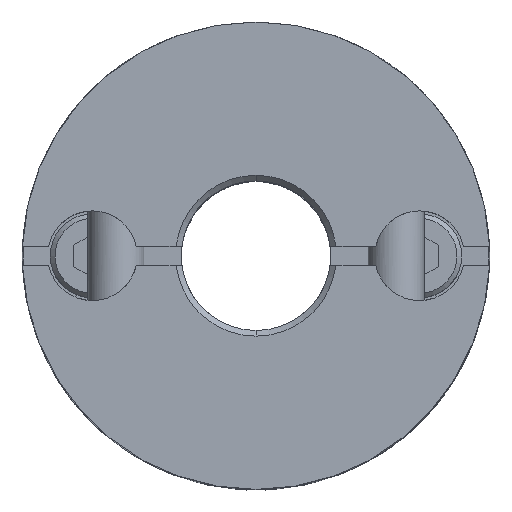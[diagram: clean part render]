
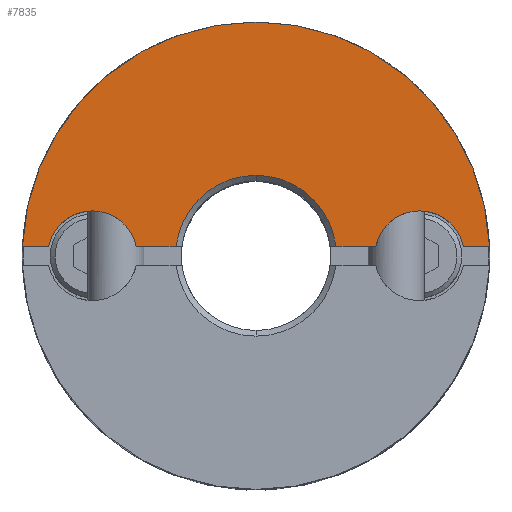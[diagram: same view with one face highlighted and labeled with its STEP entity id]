
A CAD part, top view. The second image highlights one B-rep face of the part: STEP entity #7835.
In plain terms, the highlighted planar face has unit normal (0, 0, 1).
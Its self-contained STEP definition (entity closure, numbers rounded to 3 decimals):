
#809=CARTESIAN_POINT('',(0.,12.5,11.7));
#810=VERTEX_POINT('',#809);
#817=CARTESIAN_POINT('',(12.49,0.5,11.7));
#818=VERTEX_POINT('',#817);
#819=CARTESIAN_POINT('',(0.,0.0,11.7));
#820=DIRECTION('',(0.0,0.0,-1.0));
#821=DIRECTION('',(0.0,-1.0,0.0));
#822=AXIS2_PLACEMENT_3D('',#819,#820,#821);
#823=CIRCLE('',#822,12.5);
#824=EDGE_CURVE('',#810,#818,#823,.T.);
#1028=CARTESIAN_POINT('',(0.,4.3,11.7));
#1029=VERTEX_POINT('',#1028);
#1037=CARTESIAN_POINT('',(4.271,0.5,11.7));
#1038=VERTEX_POINT('',#1037);
#1052=CARTESIAN_POINT('',(0.,0.0,11.7));
#1053=DIRECTION('',(0.0,0.0,1.0));
#1054=DIRECTION('',(0.0,1.0,0.0));
#1055=AXIS2_PLACEMENT_3D('',#1052,#1053,#1054);
#1056=CIRCLE('',#1055,4.3);
#1057=EDGE_CURVE('',#1038,#1029,#1056,.T.);
#1428=CARTESIAN_POINT('',(8.75,2.4,11.7));
#1429=VERTEX_POINT('',#1428);
#1436=CARTESIAN_POINT('',(6.403,0.5,11.7));
#1437=VERTEX_POINT('',#1436);
#1438=CARTESIAN_POINT('',(8.75,0.,11.7));
#1439=DIRECTION('',(0.0,0.0,-1.0));
#1440=DIRECTION('',(0.0,-1.0,0.0));
#1441=AXIS2_PLACEMENT_3D('',#1438,#1439,#1440);
#1442=CIRCLE('',#1441,2.4);
#1443=EDGE_CURVE('',#1437,#1429,#1442,.T.);
#1503=CARTESIAN_POINT('',(11.097,0.5,11.7));
#1504=VERTEX_POINT('',#1503);
#1511=CARTESIAN_POINT('',(8.75,0.,11.7));
#1512=DIRECTION('',(0.0,0.0,-1.0));
#1513=DIRECTION('',(0.0,-1.0,0.0));
#1514=AXIS2_PLACEMENT_3D('',#1511,#1512,#1513);
#1515=CIRCLE('',#1514,2.4);
#1516=EDGE_CURVE('',#1429,#1504,#1515,.T.);
#1837=CARTESIAN_POINT('',(-8.75,2.4,11.7));
#1838=VERTEX_POINT('',#1837);
#1870=CARTESIAN_POINT('',(-6.403,0.5,11.7));
#1871=VERTEX_POINT('',#1870);
#1878=CARTESIAN_POINT('',(-8.75,0.,11.7));
#1879=DIRECTION('',(0.0,0.0,-1.0));
#1880=DIRECTION('',(0.0,-1.0,0.0));
#1881=AXIS2_PLACEMENT_3D('',#1878,#1879,#1880);
#1882=CIRCLE('',#1881,2.4);
#1883=EDGE_CURVE('',#1838,#1871,#1882,.T.);
#6343=CARTESIAN_POINT('',(-11.097,0.5,11.7));
#6344=VERTEX_POINT('',#6343);
#6345=CARTESIAN_POINT('',(-8.75,0.,11.7));
#6346=DIRECTION('',(0.0,0.0,-1.0));
#6347=DIRECTION('',(0.0,-1.0,0.0));
#6348=AXIS2_PLACEMENT_3D('',#6345,#6346,#6347);
#6349=CIRCLE('',#6348,2.4);
#6350=EDGE_CURVE('',#6344,#1838,#6349,.T.);
#6870=CARTESIAN_POINT('',(4.271,0.5,11.7));
#6871=DIRECTION('',(1.0,0.0,0.0));
#6872=VECTOR('',#6871,2.132);
#6873=LINE('',#6870,#6872);
#6874=EDGE_CURVE('',#1038,#1437,#6873,.T.);
#6938=CARTESIAN_POINT('',(-4.271,0.5,11.7));
#6939=VERTEX_POINT('',#6938);
#6953=CARTESIAN_POINT('',(-6.403,0.5,11.7));
#6954=DIRECTION('',(1.0,0.0,0.0));
#6955=VECTOR('',#6954,2.132);
#6956=LINE('',#6953,#6955);
#6957=EDGE_CURVE('',#1871,#6939,#6956,.T.);
#7613=CARTESIAN_POINT('',(-12.49,0.5,11.7));
#7614=VERTEX_POINT('',#7613);
#7615=CARTESIAN_POINT('',(-12.49,0.5,11.7));
#7616=DIRECTION('',(1.0,0.0,0.0));
#7617=VECTOR('',#7616,1.393);
#7618=LINE('',#7615,#7617);
#7619=EDGE_CURVE('',#7614,#6344,#7618,.T.);
#7719=CARTESIAN_POINT('',(11.097,0.5,11.7));
#7720=DIRECTION('',(1.0,0.0,0.0));
#7721=VECTOR('',#7720,1.393);
#7722=LINE('',#7719,#7721);
#7723=EDGE_CURVE('',#1504,#818,#7722,.T.);
#7804=CARTESIAN_POINT('',(0.,-1.136,11.7));
#7805=DIRECTION('',(0.0,0.0,1.0));
#7806=DIRECTION('',(0.0,-1.0,0.0));
#7807=AXIS2_PLACEMENT_3D('',#7804,#7805,#7806);
#7808=PLANE('',#7807);
#7809=ORIENTED_EDGE('',*,*,#6350,.T.);
#7810=ORIENTED_EDGE('',*,*,#1883,.T.);
#7811=ORIENTED_EDGE('',*,*,#6957,.T.);
#7812=CARTESIAN_POINT('',(0.,0.0,11.7));
#7813=DIRECTION('',(0.0,0.0,1.0));
#7814=DIRECTION('',(0.0,1.0,0.0));
#7815=AXIS2_PLACEMENT_3D('',#7812,#7813,#7814);
#7816=CIRCLE('',#7815,4.3);
#7817=EDGE_CURVE('',#1029,#6939,#7816,.T.);
#7818=ORIENTED_EDGE('',*,*,#7817,.F.);
#7819=ORIENTED_EDGE('',*,*,#1057,.F.);
#7820=ORIENTED_EDGE('',*,*,#6874,.T.);
#7821=ORIENTED_EDGE('',*,*,#1443,.T.);
#7822=ORIENTED_EDGE('',*,*,#1516,.T.);
#7823=ORIENTED_EDGE('',*,*,#7723,.T.);
#7824=ORIENTED_EDGE('',*,*,#824,.F.);
#7825=CARTESIAN_POINT('',(0.,0.0,11.7));
#7826=DIRECTION('',(0.0,0.0,-1.0));
#7827=DIRECTION('',(0.0,-1.0,0.0));
#7828=AXIS2_PLACEMENT_3D('',#7825,#7826,#7827);
#7829=CIRCLE('',#7828,12.5);
#7830=EDGE_CURVE('',#7614,#810,#7829,.T.);
#7831=ORIENTED_EDGE('',*,*,#7830,.F.);
#7832=ORIENTED_EDGE('',*,*,#7619,.T.);
#7833=EDGE_LOOP('',(#7809,#7810,#7811,#7818,#7819,#7820,#7821,#7822,#7823,#7824,#7831,#7832));
#7834=FACE_OUTER_BOUND('',#7833,.T.);
#7835=ADVANCED_FACE('',(#7834),#7808,.T.);
